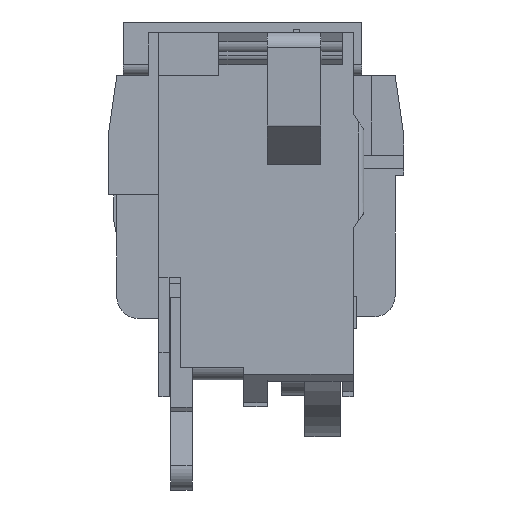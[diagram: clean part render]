
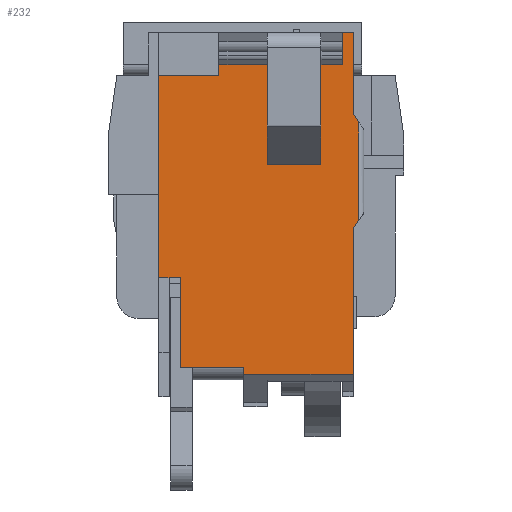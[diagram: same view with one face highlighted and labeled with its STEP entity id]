
A CAD part, left-side view. The second image highlights one B-rep face of the part: STEP entity #232.
In plain terms, the highlighted planar face has unit normal (-1, 0, 0).
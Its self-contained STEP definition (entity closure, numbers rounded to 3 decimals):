
#232=ADVANCED_FACE('',(#884),#579,.T.);
#579=PLANE('',#7301);
#884=FACE_OUTER_BOUND('',#1224,.T.);
#1224=EDGE_LOOP('',(#1836,#1837,#1838,#1839,#1840,#1841,#1842,#1843,#1844,
#1845,#1846,#1847,#1848,#1849,#1850,#1851,#1852,#1853,#1854,#1855));
#1836=ORIENTED_EDGE('',*,*,#4579,.F.);
#1837=ORIENTED_EDGE('',*,*,#4485,.F.);
#1838=ORIENTED_EDGE('',*,*,#4580,.F.);
#1839=ORIENTED_EDGE('',*,*,#4581,.F.);
#1840=ORIENTED_EDGE('',*,*,#4582,.T.);
#1841=ORIENTED_EDGE('',*,*,#4481,.F.);
#1842=ORIENTED_EDGE('',*,*,#4583,.F.);
#1843=ORIENTED_EDGE('',*,*,#4584,.F.);
#1844=ORIENTED_EDGE('',*,*,#4585,.F.);
#1845=ORIENTED_EDGE('',*,*,#4586,.T.);
#1846=ORIENTED_EDGE('',*,*,#4587,.T.);
#1847=ORIENTED_EDGE('',*,*,#4588,.F.);
#1848=ORIENTED_EDGE('',*,*,#4589,.F.);
#1849=ORIENTED_EDGE('',*,*,#4590,.F.);
#1850=ORIENTED_EDGE('',*,*,#4591,.T.);
#1851=ORIENTED_EDGE('',*,*,#4517,.T.);
#1852=ORIENTED_EDGE('',*,*,#4592,.F.);
#1853=ORIENTED_EDGE('',*,*,#4593,.F.);
#1854=ORIENTED_EDGE('',*,*,#4594,.F.);
#1855=ORIENTED_EDGE('',*,*,#4557,.F.);
#3784=VERTEX_POINT('',#9849);
#3785=VERTEX_POINT('',#9851);
#3788=VERTEX_POINT('',#9857);
#3789=VERTEX_POINT('',#9859);
#3817=VERTEX_POINT('',#9921);
#3818=VERTEX_POINT('',#9923);
#3852=VERTEX_POINT('',#9998);
#3853=VERTEX_POINT('',#10000);
#3873=VERTEX_POINT('',#10047);
#3874=VERTEX_POINT('',#10049);
#3875=VERTEX_POINT('',#10052);
#3876=VERTEX_POINT('',#10054);
#3877=VERTEX_POINT('',#10056);
#3878=VERTEX_POINT('',#10058);
#3879=VERTEX_POINT('',#10060);
#3880=VERTEX_POINT('',#10062);
#3881=VERTEX_POINT('',#10064);
#3882=VERTEX_POINT('',#10066);
#3883=VERTEX_POINT('',#10069);
#3884=VERTEX_POINT('',#10071);
#4481=EDGE_CURVE('',#3784,#3785,#5517,.T.);
#4485=EDGE_CURVE('',#3788,#3789,#5521,.T.);
#4517=EDGE_CURVE('',#3818,#3817,#5548,.T.);
#4557=EDGE_CURVE('',#3852,#3853,#5584,.T.);
#4579=EDGE_CURVE('',#3789,#3852,#5606,.T.);
#4580=EDGE_CURVE('',#3873,#3788,#5607,.T.);
#4581=EDGE_CURVE('',#3874,#3873,#5608,.T.);
#4582=EDGE_CURVE('',#3874,#3785,#5609,.T.);
#4583=EDGE_CURVE('',#3875,#3784,#5610,.T.);
#4584=EDGE_CURVE('',#3876,#3875,#5611,.T.);
#4585=EDGE_CURVE('',#3877,#3876,#5612,.T.);
#4586=EDGE_CURVE('',#3877,#3878,#5613,.T.);
#4587=EDGE_CURVE('',#3878,#3879,#5614,.T.);
#4588=EDGE_CURVE('',#3880,#3879,#5615,.T.);
#4589=EDGE_CURVE('',#3881,#3880,#5616,.T.);
#4590=EDGE_CURVE('',#3882,#3881,#5617,.T.);
#4591=EDGE_CURVE('',#3882,#3818,#5618,.T.);
#4592=EDGE_CURVE('',#3883,#3817,#5619,.T.);
#4593=EDGE_CURVE('',#3884,#3883,#5620,.T.);
#4594=EDGE_CURVE('',#3853,#3884,#5621,.T.);
#5517=LINE('',#9850,#6461);
#5521=LINE('',#9858,#6465);
#5548=LINE('',#9922,#6492);
#5584=LINE('',#9999,#6528);
#5606=LINE('',#10045,#6550);
#5607=LINE('',#10046,#6551);
#5608=LINE('',#10048,#6552);
#5609=LINE('',#10050,#6553);
#5610=LINE('',#10051,#6554);
#5611=LINE('',#10053,#6555);
#5612=LINE('',#10055,#6556);
#5613=LINE('',#10057,#6557);
#5614=LINE('',#10059,#6558);
#5615=LINE('',#10061,#6559);
#5616=LINE('',#10063,#6560);
#5617=LINE('',#10065,#6561);
#5618=LINE('',#10067,#6562);
#5619=LINE('',#10068,#6563);
#5620=LINE('',#10070,#6564);
#5621=LINE('',#10072,#6565);
#6461=VECTOR('',#7897,1.);
#6465=VECTOR('',#7901,1.);
#6492=VECTOR('',#7944,1.);
#6528=VECTOR('',#7992,1.);
#6550=VECTOR('',#8022,1.);
#6551=VECTOR('',#8023,1.);
#6552=VECTOR('',#8024,1.);
#6553=VECTOR('',#8025,1.);
#6554=VECTOR('',#8026,1.);
#6555=VECTOR('',#8027,1.);
#6556=VECTOR('',#8028,1.);
#6557=VECTOR('',#8029,1.);
#6558=VECTOR('',#8030,1.);
#6559=VECTOR('',#8031,1.);
#6560=VECTOR('',#8032,1.);
#6561=VECTOR('',#8033,1.);
#6562=VECTOR('',#8034,1.);
#6563=VECTOR('',#8035,1.);
#6564=VECTOR('',#8036,1.);
#6565=VECTOR('',#8037,1.);
#7301=AXIS2_PLACEMENT_3D('',#10073,#8038,#8039);
#7897=DIRECTION('',(0.,0.,-1.));
#7901=DIRECTION('',(0.,0.,-1.));
#7944=DIRECTION('',(0.,0.,-1.));
#7992=DIRECTION('',(0.,0.,1.));
#8022=DIRECTION('',(0.,1.,0.));
#8023=DIRECTION('',(0.,0.555,-0.832));
#8024=DIRECTION('',(0.,0.,-1.));
#8025=DIRECTION('',(0.,0.555,0.832));
#8026=DIRECTION('',(0.,-1.,0.));
#8027=DIRECTION('',(0.,0.,1.));
#8028=DIRECTION('',(0.,-1.,0.));
#8029=DIRECTION('',(0.,0.,-1.));
#8030=DIRECTION('',(0.,1.,0.));
#8031=DIRECTION('',(0.,0.,-1.));
#8032=DIRECTION('',(0.,-1.,0.));
#8033=DIRECTION('',(0.,0.,1.));
#8034=DIRECTION('',(0.,1.,0.));
#8035=DIRECTION('',(0.,1.,0.));
#8036=DIRECTION('',(0.,0.,1.));
#8037=DIRECTION('',(0.,1.,0.));
#8038=DIRECTION('',(-1.,0.,0.));
#8039=DIRECTION('',(0.,-1.,0.));
#9849=CARTESIAN_POINT('',(-29.402,-223.9,0.071));
#9850=CARTESIAN_POINT('',(-29.402,-223.9,-31.707));
#9851=CARTESIAN_POINT('',(-29.402,-223.9,-7.479));
#9857=CARTESIAN_POINT('',(-29.402,-223.9,-18.179));
#9858=CARTESIAN_POINT('',(-29.402,-223.9,-31.707));
#9859=CARTESIAN_POINT('',(-29.402,-223.9,-31.707));
#9921=CARTESIAN_POINT('',(-29.402,-205.8,-22.729));
#9922=CARTESIAN_POINT('',(-29.402,-205.8,12.018));
#9923=CARTESIAN_POINT('',(-29.402,-205.8,-3.929));
#9998=CARTESIAN_POINT('',(-29.402,-213.7,-31.707));
#9999=CARTESIAN_POINT('',(-29.402,-213.7,-31.707));
#10000=CARTESIAN_POINT('',(-29.402,-213.7,-31.129));
#10045=CARTESIAN_POINT('',(-29.402,-228.6,-31.707));
#10046=CARTESIAN_POINT('',(-29.402,-230.9,-7.679));
#10047=CARTESIAN_POINT('',(-29.402,-224.4,-17.429));
#10048=CARTESIAN_POINT('',(-29.402,-224.4,-7.479));
#10049=CARTESIAN_POINT('',(-29.402,-224.4,-8.229));
#10050=CARTESIAN_POINT('',(-29.402,-224.9,-8.979));
#10051=CARTESIAN_POINT('',(-29.402,-217.1,0.071));
#10052=CARTESIAN_POINT('',(-29.402,-222.9,0.071));
#10053=CARTESIAN_POINT('',(-29.402,-222.9,-31.707));
#10054=CARTESIAN_POINT('',(-29.402,-222.9,-2.928));
#10055=CARTESIAN_POINT('',(-29.402,-223.4,-2.928));
#10056=CARTESIAN_POINT('',(-29.402,-220.9,-2.928));
#10057=CARTESIAN_POINT('',(-29.402,-220.9,12.018));
#10058=CARTESIAN_POINT('',(-29.402,-220.9,-3.929));
#10059=CARTESIAN_POINT('',(-29.402,-228.6,-3.929));
#10060=CARTESIAN_POINT('',(-29.402,-215.9,-3.929));
#10061=CARTESIAN_POINT('',(-29.402,-215.9,12.018));
#10062=CARTESIAN_POINT('',(-29.402,-215.9,-2.928));
#10063=CARTESIAN_POINT('',(-29.402,-197.3,-2.928));
#10064=CARTESIAN_POINT('',(-29.402,-211.4,-2.928));
#10065=CARTESIAN_POINT('',(-29.402,-211.4,-31.707));
#10066=CARTESIAN_POINT('',(-29.402,-211.4,-3.929));
#10067=CARTESIAN_POINT('',(-29.402,-228.6,-3.929));
#10068=CARTESIAN_POINT('',(-29.402,-207.8,-22.729));
#10069=CARTESIAN_POINT('',(-29.402,-207.8,-22.729));
#10070=CARTESIAN_POINT('',(-29.402,-207.8,-31.707));
#10071=CARTESIAN_POINT('',(-29.402,-207.8,-31.129));
#10072=CARTESIAN_POINT('',(-29.402,-228.6,-31.129));
#10073=CARTESIAN_POINT('',(-29.402,-228.6,-31.707));
